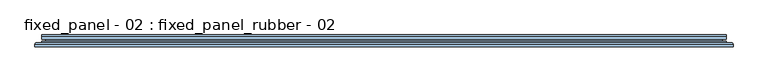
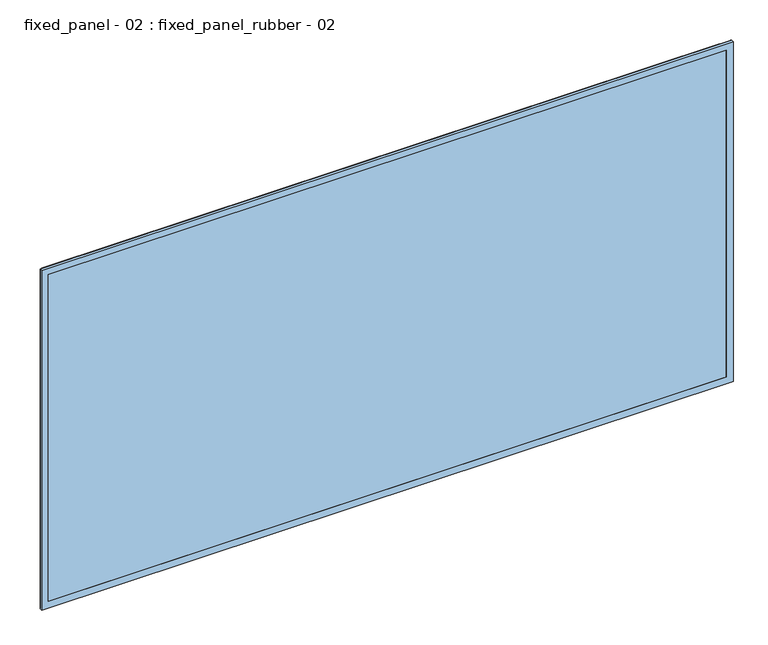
"""IFC4 building model written with IfcOpenShell, lengths in millimetres: window geometry, fixed_panel - 02 : fixed_panel_rubber - 02."""

from ifc_helpers import new_model, si_unit, frame, origin, place, context, project, spatial, polyline, ellipse_curve, outline, extrude, faceted_brep, source, transform, mapped, element, save
from ifc_brep_helpers import plane_surface, cylinder_surface, advanced_brep


def fixed_panel_02_fixed_panel_rubber_02_469b61ab(model_context):
    return source(origin(), model_context, "Body", "SolidModel", [
        advanced_brep(
        [(990.0018696, -27.9878211, 990.0157965), (995.0018696, -22.9878211, 995.0157965), (995.0018696, -22.9878211, -25.0), (990.0018696, -27.9878211, -20.0), (1004.9995476, -22.9878211, -34.9976779), (-1004.9995476, -22.9878211, -34.9976779), (-1004.9995476, -22.9878211, 1005.0134744), (1004.9995476, -22.9878211, 1005.0134744), (-995.0018696, -22.9878211, 995.0157965), (-995.0018696, -22.9878211, -25.0), (-990.0018696, -27.9878211, -20.0), (990.0018696, -34.0, 990.0157965), (990.0018696, -34.0, -20.0), (-990.0018696, -34.0, -20.0), (1009.9952231, -34.0, 1010.00915), (-1009.9952231, -34.0, 1010.00915), (-1009.9952231, -34.0, -39.9933535), (1009.9952231, -34.0, -39.9933535), (-990.0018696, -34.0, 990.0157965), (1009.9952231, -27.9834967, 1010.00915), (1009.9952231, -27.9834967, -39.9933535), (-1009.9952231, -27.9834967, -39.9933535), (-990.0018696, -27.9878211, 990.0157965), (-1009.9952231, -27.9834967, 1010.00915)],
        [
            (0, 1, ellipse_curve(frame((995.0018696, -27.9878211, 995.0157965), z_axis=(0.7071067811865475, 0.0, -0.7071067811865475), x_axis=(0.7071067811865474, 0.0, 0.7071067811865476)), 7.0710678, 5.0)),
            (1, 2),
            (2, 3, ellipse_curve(frame((995.0018696, -27.9878211, -25.0), z_axis=(0.7071067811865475, 0.0, 0.7071067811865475), x_axis=(-0.7071067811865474, 0.0, 0.7071067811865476)), 7.0710678, 5.0)),
            (3, 0),
            (4, 5),
            (5, 6),
            (6, 7),
            (7, 4),
            (1, 8),
            (8, 9),
            (9, 2),
            (9, 10, ellipse_curve(frame((-995.0018696, -27.9878211, -25.0), z_axis=(0.7071067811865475, 0.0, -0.7071067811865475), x_axis=(0.7071067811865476, 0.0, 0.7071067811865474)), 7.0710678, 5.0)),
            (10, 3),
            (11, 0),
            (3, 12),
            (12, 11),
            (10, 13),
            (13, 12),
            (14, 15),
            (15, 16),
            (16, 17),
            (17, 14),
            (13, 18),
            (18, 11),
            (19, 14),
            (17, 20),
            (20, 19),
            (16, 21),
            (21, 20),
            (7, 19, ellipse_curve(frame((1004.9995476, -27.9834967, 1005.0134744), z_axis=(0.7071067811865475, 0.0, -0.7071067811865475), x_axis=(0.7071067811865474, 0.0, 0.7071067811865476)), 7.0649521, 4.9956756)),
            (20, 4, ellipse_curve(frame((1004.9995476, -27.9834967, -34.9976779), z_axis=(0.7071067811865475, 0.0, 0.7071067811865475), x_axis=(-0.7071067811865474, 0.0, 0.7071067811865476)), 7.0649521, 4.9956756)),
            (21, 5, ellipse_curve(frame((-1004.9995476, -27.9834967, -34.9976779), z_axis=(0.7071067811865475, 0.0, -0.7071067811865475), x_axis=(0.7071067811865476, 0.0, 0.7071067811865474)), 7.0649521, 4.9956756)),
            (8, 22, ellipse_curve(frame((-995.0018696, -27.9878211, 995.0157965), z_axis=(-0.7071067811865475, 0.0, -0.7071067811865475), x_axis=(0.7071067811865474, 0.0, -0.7071067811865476)), 7.0710678, 5.0)),
            (22, 10),
            (22, 18),
            (15, 23),
            (23, 21),
            (23, 6, ellipse_curve(frame((-1004.9995476, -27.9834967, 1005.0134744), z_axis=(-0.7071067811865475, 0.0, -0.7071067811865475), x_axis=(0.7071067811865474, 0.0, -0.7071067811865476)), 7.0649521, 4.9956756)),
            (0, 22),
            (19, 23),
        ],
        [
            cylinder_surface(frame((995.0018696, -27.9878211, 990.0157965), z_axis=(0.0, 0.0, 1.0), x_axis=(1.0, 0.0, 0.0)), 5.0),
            plane_surface(frame((-1004.9995476, -22.9878211, 1005.0134744), z_axis=(0.0, 1.0, 0.0), x_axis=(1.0, 0.0, 0.0))),
            cylinder_surface(frame((990.0018696, -27.9878211, -25.0), z_axis=(1.0, 0.0, 0.0), x_axis=(0.0, 0.0, -1.0)), 5.0),
            plane_surface(frame((990.0018696, -27.9878211, 990.0157965), z_axis=(-1.0, 0.0, 0.0), x_axis=(0.0, 0.0, -1.0))),
            plane_surface(frame((990.0018696, -27.9878211, -20.0), z_axis=(0.0, 0.0, 1.0), x_axis=(-1.0, 0.0, 0.0))),
            plane_surface(frame((-990.0018696, -34.0, 990.0157965), z_axis=(0.0, -1.0, 0.0), x_axis=(1.0, 0.0, 0.0))),
            plane_surface(frame((1009.9952231, -34.0, 1010.00915), z_axis=(1.0, 0.0, 0.0), x_axis=(0.0, 0.0, -1.0))),
            plane_surface(frame((1009.9952231, -34.0, -39.9933535), z_axis=(0.0, 0.0, -1.0), x_axis=(-1.0, 0.0, 0.0))),
            cylinder_surface(frame((1004.9995476, -27.9834967, 990.0157965), z_axis=(0.0, 0.0, 1.0), x_axis=(1.0, 0.0, 0.0)), 4.9956756),
            cylinder_surface(frame((990.0018696, -27.9834967, -34.9976779), z_axis=(1.0, 0.0, 0.0), x_axis=(0.0, 0.0, -1.0)), 4.9956756),
            cylinder_surface(frame((-995.0018696, -27.9878211, -20.0), z_axis=(0.0, 0.0, -1.0), x_axis=(-1.0, 0.0, 0.0)), 5.0),
            plane_surface(frame((-990.0018696, -27.9878211, -20.0), z_axis=(1.0, 0.0, 0.0), x_axis=(0.0, 0.0, 1.0))),
            plane_surface(frame((-1009.9952231, -34.0, -39.9933535), z_axis=(-1.0, 0.0, 0.0), x_axis=(0.0, 0.0, 1.0))),
            cylinder_surface(frame((-1004.9995476, -27.9834967, -20.0), z_axis=(0.0, 0.0, -1.0), x_axis=(-1.0, 0.0, 0.0)), 4.9956756),
            cylinder_surface(frame((-990.0018696, -27.9878211, 995.0157965), z_axis=(-1.0, 0.0, 0.0), x_axis=(0.0, 0.0, 1.0)), 5.0),
            plane_surface(frame((-990.0018696, -27.9878211, 990.0157965), z_axis=(0.0, 0.0, -1.0), x_axis=(1.0, 0.0, 0.0))),
            plane_surface(frame((-1009.9952231, -34.0, 1010.00915), z_axis=(0.0, 0.0, 1.0), x_axis=(1.0, 0.0, 0.0))),
            cylinder_surface(frame((-990.0018696, -27.9834967, 1005.0134744), z_axis=(-1.0, 0.0, 0.0), x_axis=(0.0, 0.0, 1.0)), 4.9956756),
        ],
        [
            (0, [[1, 2, 3, 4]]),
            (1, [[5, 6, 7, 8], [9, 10, 11, -2]]),
            (2, [[-3, -11, 12, 13]]),
            (3, [[14, -4, 15, 16]]),
            (4, [[-15, -13, 17, 18]]),
            (5, [[19, 20, 21, 22], [-18, 23, 24, -16]]),
            (6, [[25, -22, 26, 27]]),
            (7, [[-26, -21, 28, 29]]),
            (8, [[30, -27, 31, -8]]),
            (9, [[-31, -29, 32, -5]]),
            (10, [[-12, -10, 33, 34]]),
            (11, [[-17, -34, 35, -23]]),
            (12, [[-28, -20, 36, 37]]),
            (13, [[-32, -37, 38, -6]]),
            (14, [[-33, -9, -1, 39]]),
            (15, [[-35, -39, -14, -24]]),
            (16, [[-36, -19, -25, 40]]),
            (17, [[-38, -40, -30, -7]]),
        ],
    ),
        faceted_brep([(964.0018696, -26.0, 964.0157965), (964.0018696, -6.0, 964.0157965), (964.0018696, -6.0, 6.0), (964.0018696, -26.0, 6.0), (990.0018696, -6.0, -20.0), (-990.0018696, -6.0, -20.0), (-990.0018696, -6.0, 990.0157965), (990.0018696, -6.0, 990.0157965), (-964.0018696, -6.0, 964.0157965), (-964.0018696, -6.0, 6.0), (-964.0018696, -26.0, 6.0), (990.0018696, -26.0, 990.0157965), (-990.0018696, -26.0, 990.0157965), (-990.0018696, -26.0, -20.0), (990.0018696, -26.0, -20.0), (-964.0018696, -26.0, 964.0157965), (990.0018696, -18.8, 990.0157965), (990.0018696, -18.8, -20.0), (-990.0018696, -18.8, -20.0), (-990.0018696, -18.8, 990.0157965), (979.0018696, -18.8, 979.0157965), (-979.0018696, -18.8, 979.0157965), (-979.0018696, -18.8, -9.0), (979.0018696, -18.8, -9.0), (979.0018696, -13.2, 979.0157965), (979.0018696, -13.2, -9.0), (-979.0018696, -13.2, -9.0), (990.0018696, -13.2, 990.0157965), (-990.0018696, -13.2, 990.0157965), (-990.0018696, -13.2, -20.0), (990.0018696, -13.2, -20.0), (-979.0018696, -13.2, 979.0157965)], [[[0, 1, 2, 3]], [[4, 5, 6, 7], [1, 8, 9, 2]], [[3, 2, 9, 10]], [[11, 12, 13, 14], [3, 10, 15, 0]], [[16, 11, 14, 17]], [[17, 14, 13, 18]], [[17, 18, 19, 16], [20, 21, 22, 23]], [[24, 20, 23, 25]], [[25, 23, 22, 26]], [[27, 28, 29, 30], [25, 26, 31, 24]], [[7, 27, 30, 4]], [[4, 30, 29, 5]], [[10, 9, 8, 15]], [[18, 13, 12, 19]], [[26, 22, 21, 31]], [[5, 29, 28, 6]], [[15, 8, 1, 0]], [[19, 12, 11, 16]], [[31, 21, 20, 24]], [[6, 28, 27, 7]]]),
        extrude(outline(polyline([(990.0018696, -34.0), (-990.0018696, -34.0), (-990.0018696, -26.0), (990.0018696, -26.0), (990.0018696, -34.0)])), frame((0.0, 0.0, -20.0), z_axis=(0.0, 0.0, 1.0), x_axis=(1.0, 0.0, 0.0)), (0.0, 0.0, 1.0), 1010.0157965),
        extrude(outline(polyline([(990.0018696, -6.0), (-990.0018696, -6.0), (-990.0018696, 0.0), (990.0018696, 0.0), (990.0018696, -6.0)])), frame((0.0, 0.0, -20.0), z_axis=(0.0, 0.0, 1.0), x_axis=(1.0, 0.0, 0.0)), (0.0, 0.0, 1.0), 1010.0157965),
    ])


if __name__ == "__main__":
    model = new_model("IFC4")
    model_context = context("Model", 3, world=origin())
    ifc_project = project(units=[si_unit("LENGTHUNIT", "METRE", prefix="MILLI")], contexts=[model_context])
    site = spatial("IfcSite", under=ifc_project)
    building = spatial("IfcBuilding", under=site)
    placement = place(None, origin())
    fixed_panel_02_fixed_panel_rubber_02_shape = fixed_panel_02_fixed_panel_rubber_02_469b61ab(model_context)
    element("IfcWindow", 1, ObjectType="fixed_panel - 02 : fixed_panel_rubber - 02", at=placement, inside=building, context=model_context, shape_type="MappedRepresentation", body=[
        mapped(fixed_panel_02_fixed_panel_rubber_02_shape, transform((0.0, 0.0, 0.0), x_axis=(1.0, 0.0, 0.0), y_axis=(0.0, 1.0, 0.0), z_axis=(0.0, 0.0, 1.0))),
    ])
    save(model, "model.ifc")
